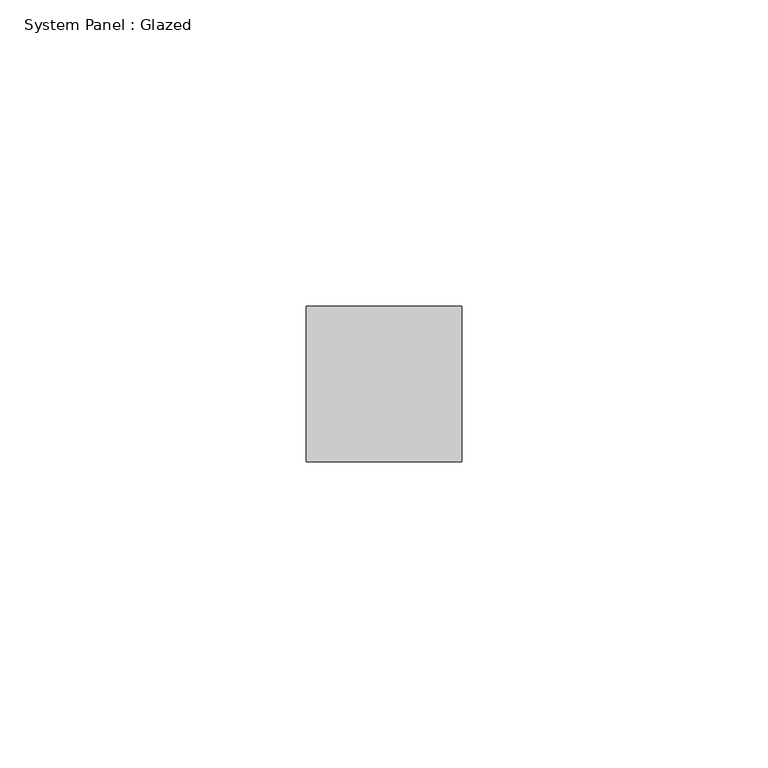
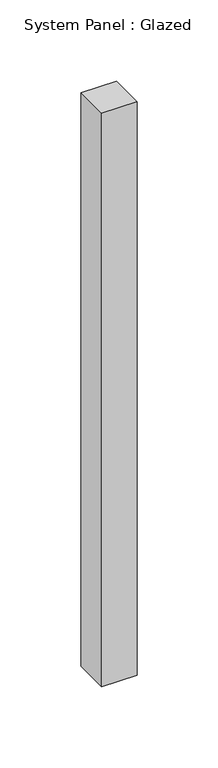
"""IFC4 building model written with IfcOpenShell, lengths in millimetres: plate geometry, System Panel : Glazed."""

import ifcopenshell
import ifcopenshell.guid

model = None  # the IFC model being written
_history = None  # IfcOwnerHistory: only IFC2X3 demands one
_inside = {}  # id of a spatial element -> (the spatial element, [elements in it])
_under = {}  # id of a project, library or spatial element -> (it, [spatial elements below it])
_declared = {}  # id of a project -> (the project, [libraries it declares])
_typed = {}  # id of a type object -> (the type object, [elements of that type])
_made_of = {}  # id of a material, layer set ... -> (it, [elements and type objects made of it])


def new_model(schema):
    """Start an empty IFC model of exactly this schema.

    Asked for "IFC4X3", IfcOpenShell would pick the latest addendum, in which some entities
    have other attributes; the version numbers below select the first issue.
    IFC2X3 requires an IfcOwnerHistory on every rooted entity: one is made here for all.
    """
    global model, _history
    if schema == "IFC4X3":
        model = ifcopenshell.file(schema_version=(4, 3, 0, 0))
    else:
        model = ifcopenshell.file(schema=schema)
    _inside.clear()
    _under.clear()
    _declared.clear()
    _typed.clear()
    _made_of.clear()
    _history = None
    if model.schema == "IFC2X3":
        org = make("IfcOrganization", Name="unknown")
        user = make(
            "IfcPersonAndOrganization",
            ThePerson=make("IfcPerson", FamilyName="unknown"),
            TheOrganization=org,
        )
        app = make(
            "IfcApplication",
            ApplicationDeveloper=org,
            Version="unknown",
            ApplicationFullName="unknown",
            ApplicationIdentifier="unknown",
        )
        _history = make(
            "IfcOwnerHistory",
            OwningUser=user,
            OwningApplication=app,
            ChangeAction="ADDED",
            CreationDate=0,
        )
    return model


def make(cls, **values):
    """One entity of the class cls with the attributes given. An attribute that is None is left unset."""
    return model.create_entity(
        cls, **{name: value for name, value in values.items() if value is not None}
    )


def rooted(cls, **values):
    """An entity with a GlobalId (a new one), such as an element, a storey or a relation."""
    return make(cls, GlobalId=ifcopenshell.guid.new(), OwnerHistory=_history, **values)


def si_unit(unit_type, name, prefix=None):
    """IfcSIUnit, for example si_unit("LENGTHUNIT", "METRE", prefix="MILLI")."""
    return make("IfcSIUnit", UnitType=unit_type, Prefix=prefix, Name=name)


def assignment(units):
    """IfcUnitAssignment: the units of a project."""
    return None if units is None else make("IfcUnitAssignment", Units=units)


def point(xyz):
    """IfcCartesianPoint."""
    return None if xyz is None else make("IfcCartesianPoint", Coordinates=xyz)


def direction(xyz):
    """IfcDirection."""
    return None if xyz is None else make("IfcDirection", DirectionRatios=xyz)


def frame(location, z_axis=None, x_axis=None):
    """IfcAxis2Placement3D, a coordinate frame: its origin and axes. An axis left out is left unset."""
    return make(
        "IfcAxis2Placement3D",
        Location=point(location),
        Axis=direction(z_axis),
        RefDirection=direction(x_axis),
    )


def origin():
    """The frame at (0, 0, 0) with its axes left unset."""
    return frame((0.0, 0.0, 0.0))


def origin_with_axes():
    """The frame at (0, 0, 0) with the z axis (0, 0, 1) and the x axis (1, 0, 0) written out."""
    return frame((0.0, 0.0, 0.0), z_axis=(0.0, 0.0, 1.0), x_axis=(1.0, 0.0, 0.0))


def place(relative_to, where):
    """IfcLocalPlacement: puts the frame where relative to a parent placement (None: the world)."""
    return make(
        "IfcLocalPlacement", PlacementRelTo=relative_to, RelativePlacement=where
    )


def context(
    kind, dimensions, precision=None, world=None, true_north=None, identifier=None
):
    """IfcGeometricRepresentationContext, for example the 3D "Model" context."""
    return make(
        "IfcGeometricRepresentationContext",
        ContextIdentifier=identifier,
        ContextType=kind,
        CoordinateSpaceDimension=dimensions,
        Precision=precision,
        WorldCoordinateSystem=world,
        TrueNorth=true_north,
    )


def project(units=None, contexts=None):
    """IfcProject with its units and contexts."""
    return rooted(
        "IfcProject",
        Name="project",
        RepresentationContexts=contexts,
        UnitsInContext=assignment(units),
    )


def spatial(cls, under=None, at=None, **own):
    """A site, building, storey or space (cls), placed at a placement, below another one or the project."""
    s = rooted(cls, ObjectPlacement=at, **own)
    if under is not None:
        _under.setdefault(under.id(), (under, []))[1].append(s)
    return s


def polyline(points):
    """IfcPolyline through the points."""
    return make("IfcPolyline", Points=[point(p) for p in points])


def outline(outer, holes=None, kind="AREA"):
    """IfcArbitraryClosedProfileDef: a profile drawn as a closed curve; with holes, ...WithVoids."""
    if holes is None:
        return make("IfcArbitraryClosedProfileDef", ProfileType=kind, OuterCurve=outer)
    return make(
        "IfcArbitraryProfileDefWithVoids",
        ProfileType=kind,
        OuterCurve=outer,
        InnerCurves=holes,
    )


def extrude(swept, where, along, depth):
    """IfcExtrudedAreaSolid: the profile swept, set in the frame where, extruded along a direction by depth."""
    return make(
        "IfcExtrudedAreaSolid",
        SweptArea=swept,
        Position=where,
        ExtrudedDirection=direction(along),
        Depth=depth,
    )


def shape(context_of_items, identifier, shape_type, items):
    """IfcShapeRepresentation: the items that make up one representation, for example the "Body"."""
    return make(
        "IfcShapeRepresentation",
        ContextOfItems=context_of_items,
        RepresentationIdentifier=identifier,
        RepresentationType=shape_type,
        Items=items,
    )


def source(mapping_origin, context_of_items, identifier, shape_type, items):
    """IfcRepresentationMap: a shape defined once, which mapped items show again and again."""
    return make(
        "IfcRepresentationMap",
        MappingOrigin=mapping_origin,
        MappedRepresentation=shape(context_of_items, identifier, shape_type, items),
    )


def transform(
    local_origin,
    x_axis=None,
    y_axis=None,
    z_axis=None,
    scale=None,
    scale2=None,
    scale3=None,
    uniform=True,
):
    """IfcCartesianTransformationOperator3D, or its non-uniform kind. x_axis, y_axis, z_axis: its Axis1, 2, 3."""
    if uniform:
        return make(
            "IfcCartesianTransformationOperator3D",
            Axis1=direction(x_axis),
            Axis2=direction(y_axis),
            LocalOrigin=point(local_origin),
            Scale=scale,
            Axis3=direction(z_axis),
        )
    return make(
        "IfcCartesianTransformationOperator3DnonUniform",
        Axis1=direction(x_axis),
        Axis2=direction(y_axis),
        LocalOrigin=point(local_origin),
        Scale=scale,
        Axis3=direction(z_axis),
        Scale2=scale2,
        Scale3=scale3,
    )


def mapped(mapping_source, mapping_target):
    """IfcMappedItem: shows the shape of a source again, moved by a transform."""
    return make(
        "IfcMappedItem", MappingSource=mapping_source, MappingTarget=mapping_target
    )


def made_of(thing, what):
    """Note that an element or type object is made of a material, layer set ...; save() writes the relation."""
    if what is not None:
        _made_of.setdefault(what.id(), (what, []))[1].append(thing)
    return thing


def element(
    cls,
    number,
    at=None,
    inside=None,
    cuts=None,
    type_object=None,
    material=None,
    context=None,
    identifier="Body",
    shape_type=None,
    held_by="IfcProductDefinitionShape",
    body=None,
    shapes=None,
    **own,
):
    """One element of the class cls, such as IfcWall. Its Tag is "e" and its number.

    at: its placement. inside: the storey or other place that contains it. cuts: it is an
    opening in that element (IfcRelVoidsElement). A single representation is given by context,
    identifier, shape_type and body (its items); several are given by shapes. held_by: the class
    of the entity that holds the representations. save() writes the other relations.
    """
    e = rooted(cls, Tag="e%d" % number, ObjectPlacement=at, **own)
    if body is not None:
        shapes = [shape(context, identifier, shape_type, body)]
    if shapes is not None:
        e.Representation = make(held_by, Representations=shapes)
    if inside is not None:
        _inside.setdefault(inside.id(), (inside, []))[1].append(e)
    if cuts is not None:
        rooted(
            "IfcRelVoidsElement", RelatingBuildingElement=cuts, RelatedOpeningElement=e
        )
    if type_object is not None:
        _typed.setdefault(type_object.id(), (type_object, []))[1].append(e)
    return made_of(e, material)


def aggregate(whole, parts):
    """IfcRelAggregates: a whole, such as a stair, and the parts it consists of."""
    return rooted("IfcRelAggregates", RelatingObject=whole, RelatedObjects=parts)


def save(model, path):
    """Write the relations noted so far, then the file.

    IfcRelAggregates (storeys below a building ...), IfcRelContainedInSpatialStructure (elements
    in a storey), IfcRelDefinesByType, IfcRelAssociatesMaterial and IfcRelDeclares: one each for
    every whole, place, type object, material and project.
    """
    for whole, parts in _under.values():
        aggregate(whole, parts)
    for where, things in _inside.values():
        rooted(
            "IfcRelContainedInSpatialStructure",
            RelatedElements=things,
            RelatingStructure=where,
        )
    for kind, things in _typed.values():
        rooted("IfcRelDefinesByType", RelatedObjects=things, RelatingType=kind)
    for what, things in _made_of.values():
        rooted("IfcRelAssociatesMaterial", RelatedObjects=things, RelatingMaterial=what)
    for by, libraries in _declared.values():
        rooted("IfcRelDeclares", RelatingContext=by, RelatedDefinitions=libraries)
    model.write(path)


def system_panel_glazed_886d5cdf(model_context):
    return source(origin(), model_context, "Body", "SweptSolid", [
        extrude(outline(polyline([(12.6999998, 19.05), (-12.6999998, 19.05), (-12.6999998, 44.45), (12.6999998, 44.45), (12.6999998, 19.05)])), origin_with_axes(), (0.0, 0.0, 1.0), 431.8),
    ])


if __name__ == "__main__":
    model = new_model("IFC4")
    model_context = context("Model", 3, world=origin())
    ifc_project = project(units=[si_unit("LENGTHUNIT", "METRE", prefix="MILLI")], contexts=[model_context])
    site = spatial("IfcSite", under=ifc_project)
    building = spatial("IfcBuilding", under=site)
    placement = place(None, origin())
    system_panel_glazed_shape = system_panel_glazed_886d5cdf(model_context)
    element("IfcPlate", 1, ObjectType="System Panel : Glazed", at=placement, inside=building, context=model_context, shape_type="MappedRepresentation", body=[
        mapped(system_panel_glazed_shape, transform((0.0, 0.0, 0.0), x_axis=(1.0, 0.0, 0.0), y_axis=(0.0, 1.0, 0.0), z_axis=(0.0, 0.0, 1.0))),
    ])
    save(model, "model.ifc")
